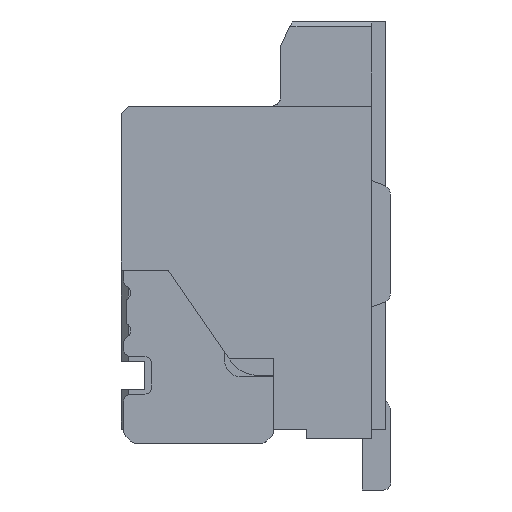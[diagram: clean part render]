
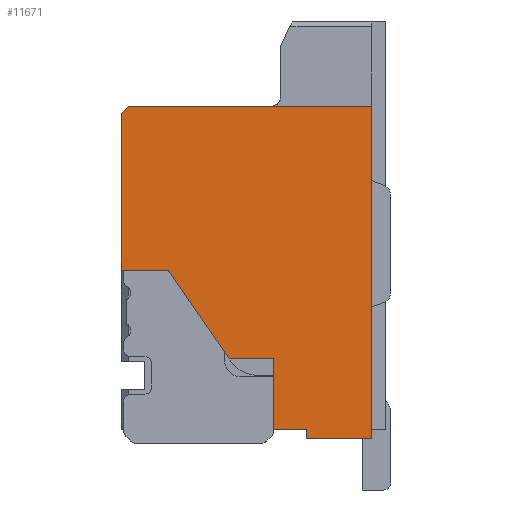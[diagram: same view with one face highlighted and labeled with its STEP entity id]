
A CAD part, left-side view. The second image highlights one B-rep face of the part: STEP entity #11671.
In plain terms, the highlighted planar face has unit normal (-1, 0, 0).
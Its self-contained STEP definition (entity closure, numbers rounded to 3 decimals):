
#5047=CARTESIAN_POINT('Vertex',(-17.,1.4,0.2)) ;
#5050=CARTESIAN_POINT('Line Origine',(-17.,1.75,0.2)) ;
#5054=CARTESIAN_POINT('Vertex',(-17.,2.1,0.2)) ;
#11577=CARTESIAN_POINT('Vertex',(-17.,1.4,0.)) ;
#11580=CARTESIAN_POINT('Line Origine',(-17.,1.4,0.1)) ;
#11592=CARTESIAN_POINT('Axis2P3D Location',(-17.,0.,0.)) ;
#11597=CARTESIAN_POINT('Line Origine',(-17.,4.85,3.6)) ;
#11601=CARTESIAN_POINT('Vertex',(-17.,5.35,3.6)) ;
#11603=CARTESIAN_POINT('Vertex',(-17.,4.35,3.6)) ;
#11606=CARTESIAN_POINT('Line Origine',(-17.,3.7,2.65)) ;
#11610=CARTESIAN_POINT('Vertex',(-17.,3.05,1.7)) ;
#11613=CARTESIAN_POINT('Line Origine',(-17.,2.575,1.7)) ;
#11617=CARTESIAN_POINT('Vertex',(-17.,2.1,1.7)) ;
#11620=CARTESIAN_POINT('Line Origine',(-17.,2.1,0.95)) ;
#11625=CARTESIAN_POINT('Line Origine',(-17.,0.7,0.)) ;
#11629=CARTESIAN_POINT('Vertex',(-17.,0.,0.)) ;
#11632=CARTESIAN_POINT('Line Origine',(-17.,0.,3.55)) ;
#11636=CARTESIAN_POINT('Vertex',(-17.,0.,7.1)) ;
#11639=CARTESIAN_POINT('Line Origine',(-17.,2.6,7.1)) ;
#11643=CARTESIAN_POINT('Vertex',(-17.,5.2,7.1)) ;
#11646=CARTESIAN_POINT('Line Origine',(-17.,5.275,7.025)) ;
#11650=CARTESIAN_POINT('Vertex',(-17.,5.35,6.95)) ;
#11653=CARTESIAN_POINT('Line Origine',(-17.,5.35,5.275)) ;
#5051=DIRECTION('Vector Direction',(0.,1.,0.)) ;
#11581=DIRECTION('Vector Direction',(0.,0.,1.)) ;
#11593=DIRECTION('Axis2P3D Direction',(1.,0.,0.)) ;
#11594=DIRECTION('Axis2P3D XDirection',(0.,1.,0.)) ;
#11598=DIRECTION('Vector Direction',(0.,1.,0.)) ;
#11607=DIRECTION('Vector Direction',(0.,0.565,0.825)) ;
#11614=DIRECTION('Vector Direction',(0.,1.,0.)) ;
#11621=DIRECTION('Vector Direction',(0.,0.,1.)) ;
#11626=DIRECTION('Vector Direction',(0.,1.,0.)) ;
#11633=DIRECTION('Vector Direction',(0.,0.,-1.)) ;
#11640=DIRECTION('Vector Direction',(0.,-1.,0.)) ;
#11647=DIRECTION('Vector Direction',(0.,0.707,-0.707)) ;
#11654=DIRECTION('Vector Direction',(0.,0.,1.)) ;
#11595=AXIS2_PLACEMENT_3D('Plane Axis2P3D',#11592,#11593,#11594) ;
#11659=ORIENTED_EDGE('',*,*,#11605,.T.) ;
#11660=ORIENTED_EDGE('',*,*,#11612,.T.) ;
#11661=ORIENTED_EDGE('',*,*,#11619,.T.) ;
#11662=ORIENTED_EDGE('',*,*,#11624,.T.) ;
#11663=ORIENTED_EDGE('',*,*,#5056,.F.) ;
#11664=ORIENTED_EDGE('',*,*,#11584,.F.) ;
#11665=ORIENTED_EDGE('',*,*,#11631,.F.) ;
#11666=ORIENTED_EDGE('',*,*,#11638,.F.) ;
#11667=ORIENTED_EDGE('',*,*,#11645,.F.) ;
#11668=ORIENTED_EDGE('',*,*,#11652,.F.) ;
#11669=ORIENTED_EDGE('',*,*,#11657,.F.) ;
#5052=VECTOR('Line Direction',#5051,1.) ;
#11582=VECTOR('Line Direction',#11581,1.) ;
#11599=VECTOR('Line Direction',#11598,1.) ;
#11608=VECTOR('Line Direction',#11607,1.) ;
#11615=VECTOR('Line Direction',#11614,1.) ;
#11622=VECTOR('Line Direction',#11621,1.) ;
#11627=VECTOR('Line Direction',#11626,1.) ;
#11634=VECTOR('Line Direction',#11633,1.) ;
#11641=VECTOR('Line Direction',#11640,1.) ;
#11648=VECTOR('Line Direction',#11647,1.) ;
#11655=VECTOR('Line Direction',#11654,1.) ;
#11671=ADVANCED_FACE('\X2\96F64EF651E04F554F53\X0\',(#11670),#11596,.F.) ;
#5056=EDGE_CURVE('',#5048,#5055,#5053,.T.) ;
#11584=EDGE_CURVE('',#11578,#5048,#11583,.T.) ;
#11605=EDGE_CURVE('',#11602,#11604,#11600,.F.) ;
#11612=EDGE_CURVE('',#11604,#11611,#11609,.F.) ;
#11619=EDGE_CURVE('',#11611,#11618,#11616,.F.) ;
#11624=EDGE_CURVE('',#11618,#5055,#11623,.F.) ;
#11631=EDGE_CURVE('',#11630,#11578,#11628,.T.) ;
#11638=EDGE_CURVE('',#11637,#11630,#11635,.T.) ;
#11645=EDGE_CURVE('',#11644,#11637,#11642,.T.) ;
#11652=EDGE_CURVE('',#11651,#11644,#11649,.F.) ;
#11657=EDGE_CURVE('',#11602,#11651,#11656,.T.) ;
#11658=EDGE_LOOP('',(#11659,#11660,#11661,#11662,#11663,#11664,#11665,#11666,#11667,#11668,#11669)) ;
#11670=FACE_OUTER_BOUND('',#11658,.T.) ;
#5053=LINE('Line',#5050,#5052) ;
#11583=LINE('Line',#11580,#11582) ;
#11600=LINE('Line',#11597,#11599) ;
#11609=LINE('Line',#11606,#11608) ;
#11616=LINE('Line',#11613,#11615) ;
#11623=LINE('Line',#11620,#11622) ;
#11628=LINE('Line',#11625,#11627) ;
#11635=LINE('Line',#11632,#11634) ;
#11642=LINE('Line',#11639,#11641) ;
#11649=LINE('Line',#11646,#11648) ;
#11656=LINE('Line',#11653,#11655) ;
#11596=PLANE('Plane',#11595) ;
#5048=VERTEX_POINT('',#5047) ;
#5055=VERTEX_POINT('',#5054) ;
#11578=VERTEX_POINT('',#11577) ;
#11602=VERTEX_POINT('',#11601) ;
#11604=VERTEX_POINT('',#11603) ;
#11611=VERTEX_POINT('',#11610) ;
#11618=VERTEX_POINT('',#11617) ;
#11630=VERTEX_POINT('',#11629) ;
#11637=VERTEX_POINT('',#11636) ;
#11644=VERTEX_POINT('',#11643) ;
#11651=VERTEX_POINT('',#11650) ;
